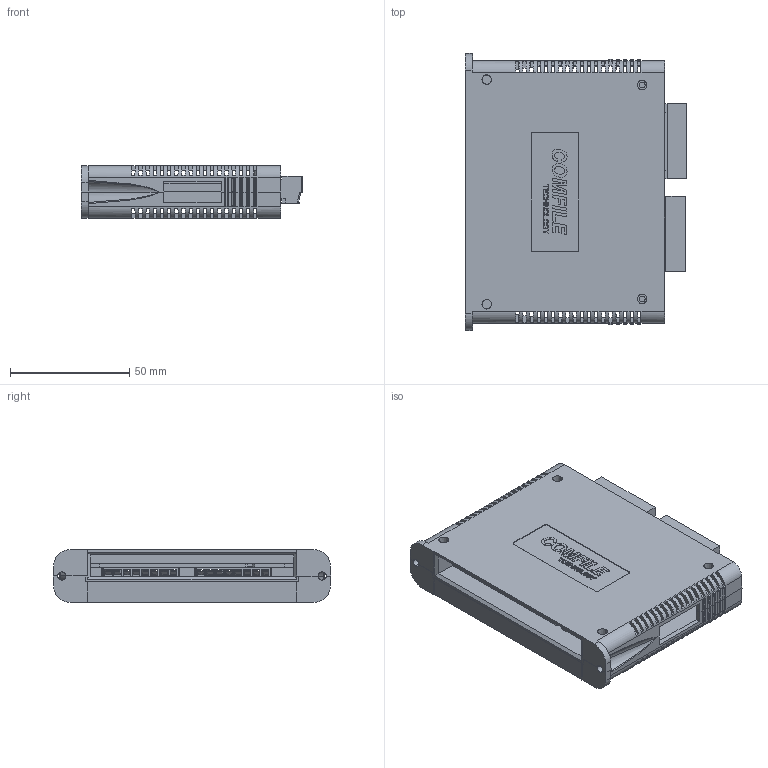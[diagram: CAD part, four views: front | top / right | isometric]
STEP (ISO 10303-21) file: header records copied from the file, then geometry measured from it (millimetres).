
FILE_DESCRIPTION (( 'STEP AP214' ), '1' );
FILE_NAME ('CF-DORL8_ASM.STEP', '2016-05-30T01:55:31', ( 'Registered User' ), ( 'Microsoft Corporation' ), 'SwSTEP 2.0', 'SolidWorks 2014', '' );
FILE_SCHEMA (( 'AUTOMOTIVE_DESIGN' ));
Length unit declared in the file: millimetre
Products named in the file (1): CF-DORL8_ASM
Bounding box: 92.6 x 116 x 22 mm (x, y, z)
Surface area: 60992.8 mm2 (no closed solid volume)
Topology: 0 solids, 11 shells, 1069 faces, 4096 edges, 2874 vertices
Faces by surface type: plane 877, cylinder 180, cone 8, bspline 4
Entity records: 53654 total; most frequent: CARTESIAN_POINT 9622, ORIENTED_EDGE 6392, DIRECTION 6062, EDGE_CURVE 4096, LINE 3290, VECTOR 3290, VERTEX_POINT 2874, AXIS2_PLACEMENT_3D 1386
